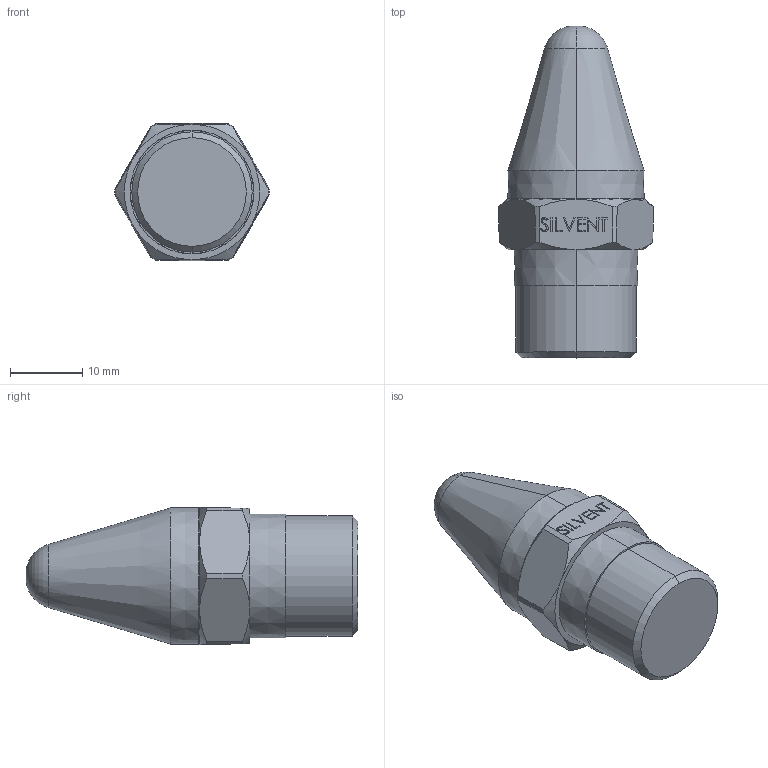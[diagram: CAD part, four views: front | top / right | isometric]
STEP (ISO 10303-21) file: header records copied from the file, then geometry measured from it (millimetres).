
FILE_DESCRIPTION (( 'STEP AP203' ), '1' );
FILE_NAME ('Silvent 2005.STEP', '2003-09-23T11:46:33', ( 'Ulf Persson' ), ( '' ), 'SwSTEP 2.0', 'SolidWorks 2003099', '' );
FILE_SCHEMA (( 'CONFIG_CONTROL_DESIGN' ));
Length unit declared in the file: millimetre
Products named in the file (1): Silvent 2005
Bounding box: 21.46 x 46 x 19 mm (x, y, z)
Volume: 9338 mm3; surface area: 2626.3 mm2
Topology: 1 solids, 1 shells, 114 faces, 302 edges, 197 vertices
Faces by surface type: plane 65, cone 30, bspline 15, cylinder 2, torus 2
Entity records: 4701 total; most frequent: CARTESIAN_POINT 1959, ORIENTED_EDGE 600, DIRECTION 466, EDGE_CURVE 300, VERTEX_POINT 197, LINE 182, VECTOR 182, AXIS2_PLACEMENT_3D 142
